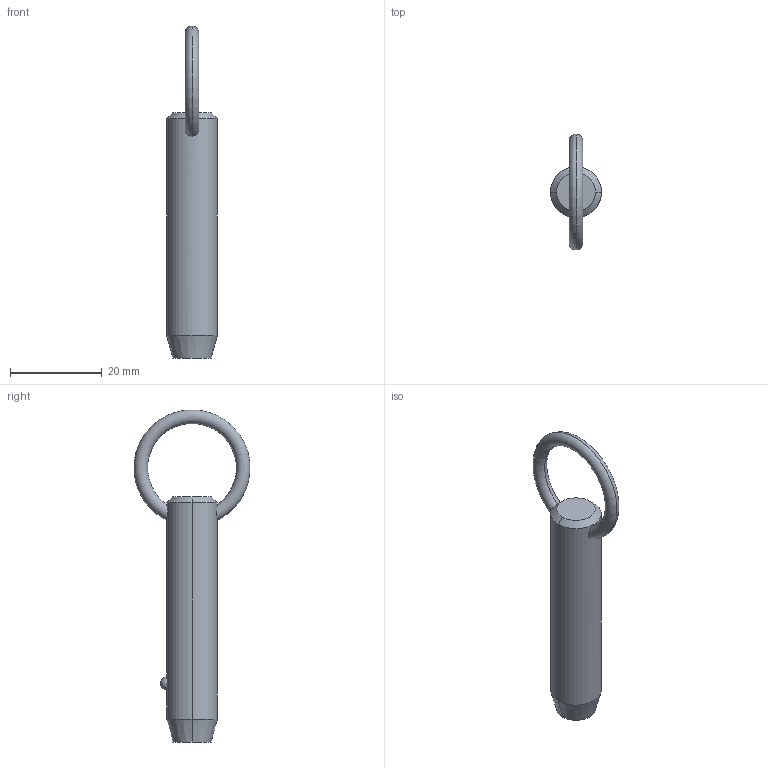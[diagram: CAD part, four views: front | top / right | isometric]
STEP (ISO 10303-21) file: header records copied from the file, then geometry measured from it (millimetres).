
FILE_DESCRIPTION (( 'STEP AP203' ), '1' );
FILE_NAME ('P1250.050-130.step', '2019-07-29T20:29:37', ( '' ), ( '' ), 'SwSTEP 2.0', 'SolidWorks 2017', '' );
FILE_SCHEMA (( 'CONFIG_CONTROL_DESIGN' ));
Length unit declared in the file: millimetre
Products named in the file (1): P1250.050-130
Bounding box: 11.1 x 25.32 x 72.55 mm (x, y, z)
Volume: 5469.5 mm3; surface area: 2521.8 mm2
Topology: 1 solids, 1 shells, 12 faces, 28 edges, 17 vertices
Faces by surface type: cone 4, torus 2, sphere 2, cylinder 2, plane 2
Entity records: 523 total; most frequent: CARTESIAN_POINT 190, DIRECTION 56, ORIENTED_EDGE 48, AXIS2_PLACEMENT_3D 25, EDGE_CURVE 24, EDGE_LOOP 15, VERTEX_POINT 15, CIRCLE 12
